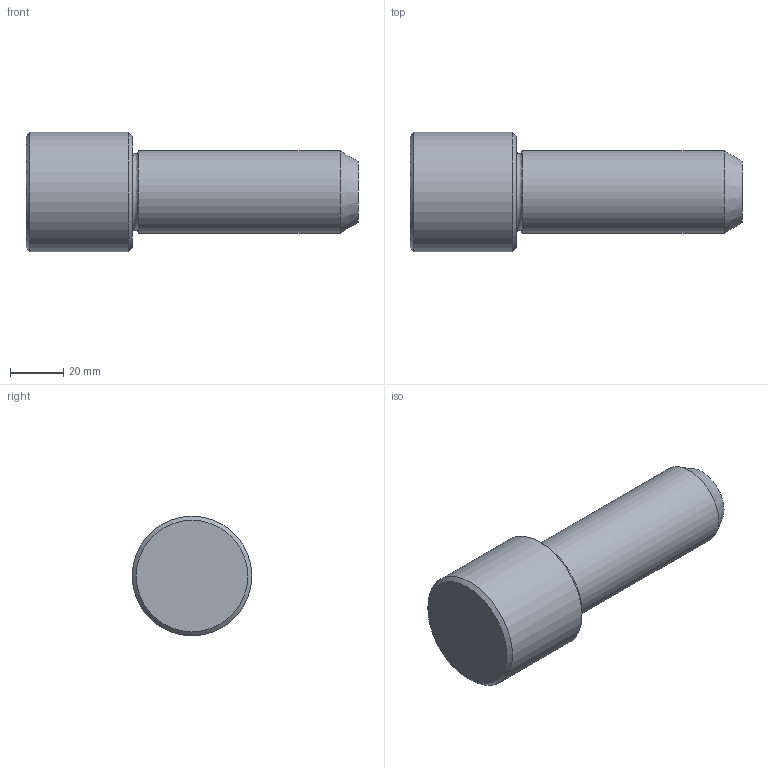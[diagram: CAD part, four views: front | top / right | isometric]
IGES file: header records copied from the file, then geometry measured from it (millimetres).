
Global section: file name: C331125.ipt; native system: Autodesk Inventor 2021; preprocessor: unknown; author: SM; date: 20211221.121041; units: millimetre
Bounding box: 125 x 45 x 45 mm (x, y, z)
Volume: 126116.8 mm3; surface area: 16645.9 mm2
Topology: 1 solids, 1 shells, 9 faces, 16 edges, 10 vertices
Faces by surface type: cone 3, plane 3, cylinder 2, revolution 1
Full cylindrical faces by diameter (mm): 31 x1, 45 x1
